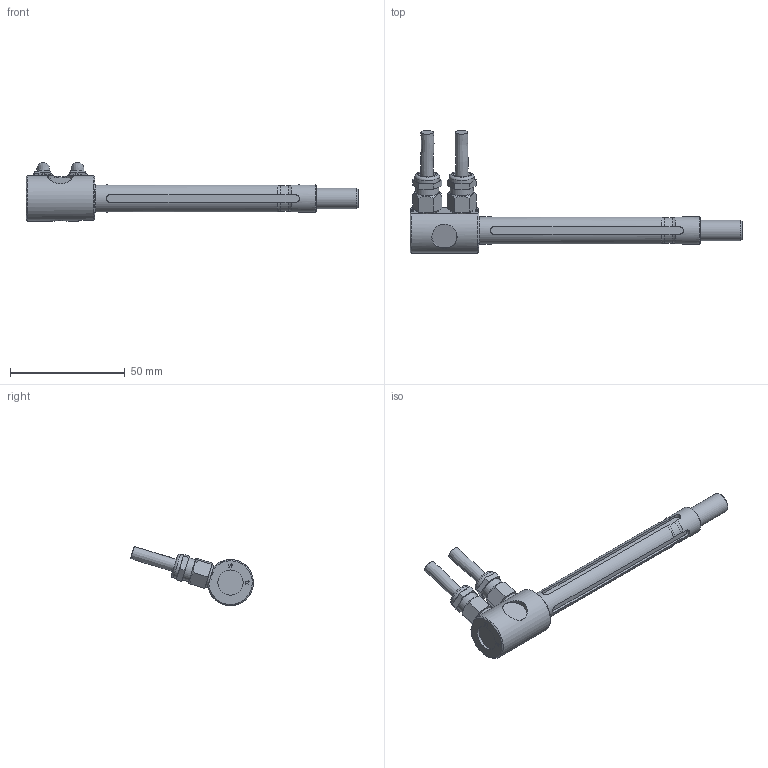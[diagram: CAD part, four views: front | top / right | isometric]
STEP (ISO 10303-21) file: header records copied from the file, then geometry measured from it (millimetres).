
FILE_DESCRIPTION(/* description */ ('Alibre Inc.'),/* implementation_level */ '2;1');
FILE_NAME(/* name */ 'export-41546550-2D5F-4359-A285-F5642219D04B',/* time_stamp */ '2022-04-29T09:24:25+02:00',/* author */ (''),/* organization */ (''),/* preprocessor_version */ 'ST-DEVELOPER v17',/* originating_system */ 'Alibre',/* authorisation */ '');
FILE_SCHEMA (('CONFIG_CONTROL_DESIGN'));
Length unit declared in the file: millimetre
Bounding box: 144.7 x 53.58 x 25.71 mm (x, y, z)
Volume: 21336 mm3; surface area: 11941.5 mm2
Topology: 7 solids, 7 shells, 372 faces, 968 edges, 641 vertices
Faces by surface type: plane 210, bspline 94, cylinder 40, torus 15, cone 13
Full cylindrical faces by diameter (mm): 4 x1, 4.917 x1, 5.5 x2, 7.5 x2, 8 x2, 9 x1, 10 x2, 10.8 x2, 11 x3, 12 x2
Entity records: 11241 total; most frequent: CARTESIAN_POINT 3251, ORIENTED_EDGE 1740, DIRECTION 985, EDGE_CURVE 870, VERTEX_POINT 593, VECTOR 557, LINE 557, FACE_BOUND 399
